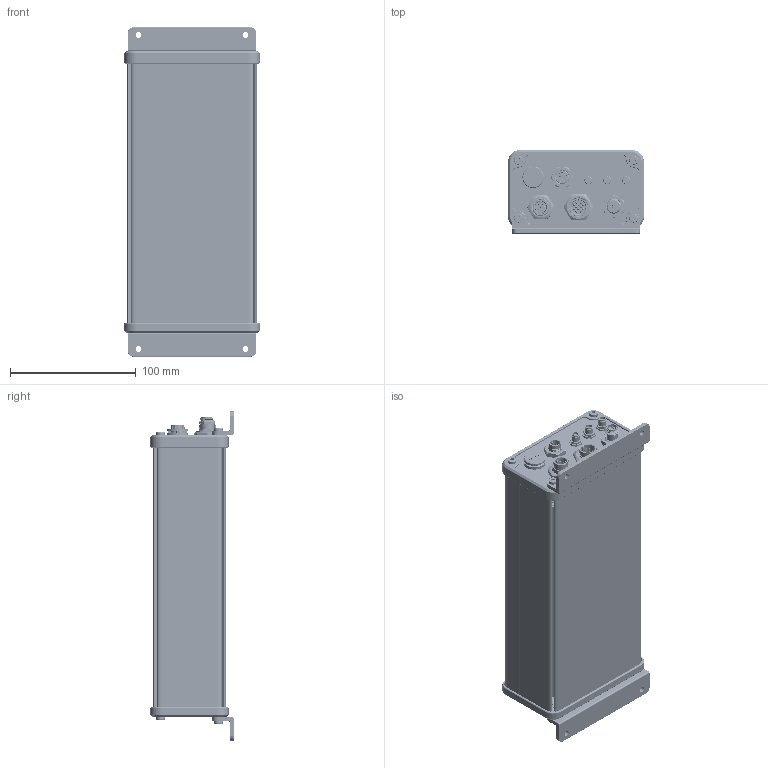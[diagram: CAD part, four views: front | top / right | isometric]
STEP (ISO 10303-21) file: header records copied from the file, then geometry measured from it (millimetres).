
FILE_DESCRIPTION (( 'STEP AP203' ), '1' );
FILE_NAME ('RRR_no_internals (09-10-23).STEP', '2023-10-09T11:18:02', ( 'Jeffrey' ), ( 'Microsoft' ), 'SwSTEP 2.0', 'SolidWorks 2016', '' );
FILE_SCHEMA (( 'CONFIG_CONTROL_DESIGN' ));
Length unit declared in the file: millimetre
Products named in the file (40): BAB0079GO06_8; BAB0079GO06_10; 00504 - E; 00502  -  F; TBJCR174 Nut; BAB0079GO06_9; BAB0079GO06_11; 17281-3PG-300; 00501  -  E; TBJCR174 Washer; ZTM119E1201_EQ_1; BAB0079GO06_2; ANA00012188; SNAP-BODY; TBJCR174 assembly; ZTM119E1201_EQ; BAB0079GO06_3; Assembly-1; SNAP-MEMBRANCE; M4 CUP HEAD SCREW; ANB122XXX01; BAB0079GO06_4; AU-08PMMP-QC8001-IGS; SNAP-CAP; 00503  -  E; BAB0079GO06_5; ANA00012188 NUT; SNAP-O-RING1; 00505  -  C; BAB0079GO06_6; BAB0079GO06; VENT-PQ1XXX-XXXXX-STP; DGA0007EP70; RRR_no_internals (09-10-23); SMA connector; BAB0079GO06_7; BAB0079GO06_1; 00506  -  G; BU-12PMMP-LC7001-IGS; TBJCR174 body
Assembly tree (54 placements, depth 4):
  RRR_no_internals (09-10-23)
    SMA connector  x3
    TBJCR174 assembly
      TBJCR174 body
      TBJCR174 Nut
      TBJCR174 Washer
    M4 CUP HEAD SCREW  x12
    BU-12PMMP-LC7001-IGS
      DGA0007EP70
    00502  -  F
    00501  -  E
    VENT-PQ1XXX-XXXXX-STP
      SNAP-BODY
      SNAP-MEMBRANCE
      SNAP-CAP
      SNAP-O-RING1
    00506  -  G
    00504 - E  x2
    17281-3PG-300
    AU-08PMMP-QC8001-IGS
      Assembly-1
        ANA00012188
    ANA00012188 NUT
    ZTM119E1201_EQ
      BAB0079GO06
      BAB0079GO06_1
      BAB0079GO06_10
      BAB0079GO06_11
      BAB0079GO06_2
      BAB0079GO06_3
      BAB0079GO06_4
      BAB0079GO06_5
      BAB0079GO06_6
      BAB0079GO06_7
      BAB0079GO06_8
      BAB0079GO06_9
      ZTM119E1201_EQ_1
    ANB122XXX01
    00503  -  E
    00505  -  C  x2
Bounding box: 107.5 x 66 x 261.4 mm (x, y, z)
Volume: 308936.1 mm3; surface area: 229890.3 mm2
Topology: 48 solids, 159 shells, 5105 faces, 14180 edges, 9552 vertices
Faces by surface type: cylinder 2116, plane 1689, bspline 836, cone 246, torus 200, sphere 18
Entity records: 203479 total; most frequent: CARTESIAN_POINT 112436, ORIENTED_EDGE 19850, DIRECTION 15066, EDGE_CURVE 9981, VERTEX_POINT 6855, AXIS2_PLACEMENT_3D 5269, VECTOR 4528, LINE 4528
